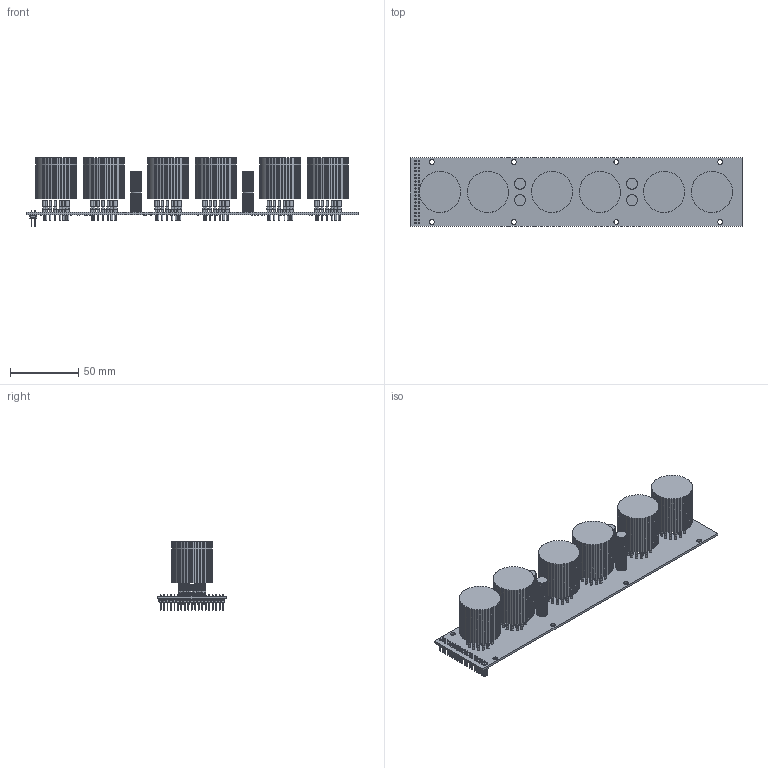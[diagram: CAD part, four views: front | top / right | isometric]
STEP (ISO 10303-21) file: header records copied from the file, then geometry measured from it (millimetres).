
FILE_DESCRIPTION(('Open CASCADE Model'),'2;1');
FILE_NAME('Open CASCADE Shape Model','2019-11-02T01:26:30',('Author'),( 'Open CASCADE'),'Open CASCADE STEP processor 6.8','Open CASCADE 6.8' ,'Unknown');
FILE_SCHEMA(('AUTOMOTIVE_DESIGN { 1 0 10303 214 1 1 1 1 }'));
Products named in the file (1): PCB
Bounding box: 243 x 50 x 50 mm (x, y, z)
Volume: 154351.7 mm3; surface area: 64890.6 mm2
Topology: 101 solids, 1567 shells, 4844 faces, 14806 edges, 11694 vertices
Faces by surface type: plane 2904, cylinder 1716, sphere 224
Full cylindrical faces by diameter (mm): 0.9 x46, 1.6 x84, 3.2 x4, 3.5 x8, 5 x6
Entity records: 175849 total; most frequent: CARTESIAN_POINT 31121, DIRECTION 27908, ORIENTED_EDGE 21808, EDGE_CURVE 14582, VERTEX_POINT 11694, LINE 10946, VECTOR 10946, AXIS2_PLACEMENT_3D 8481
